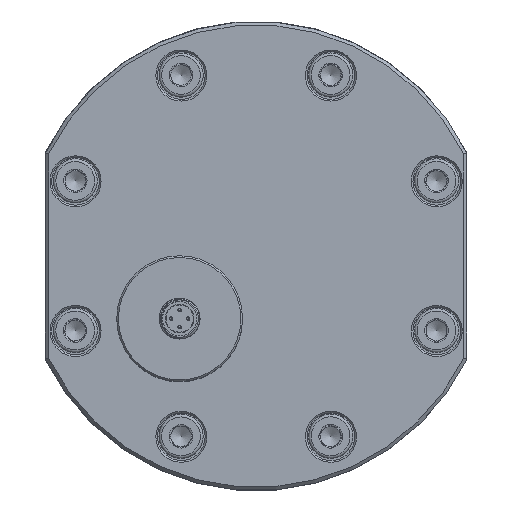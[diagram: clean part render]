
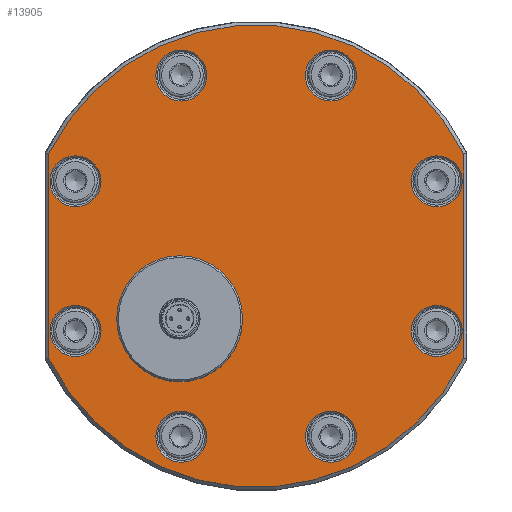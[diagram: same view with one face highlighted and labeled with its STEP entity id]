
A CAD part, top view. The second image highlights one B-rep face of the part: STEP entity #13905.
In plain terms, the highlighted planar face has unit normal (0, 0, 1).
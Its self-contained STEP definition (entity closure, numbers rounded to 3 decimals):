
#489=LINE('',#64058,#5764);
#490=LINE('',#64063,#5765);
#5764=VECTOR('',#48195,1.);
#5765=VECTOR('',#48198,1.);
#13905=ADVANCED_FACE('',(#17956,#17957,#17958,#17959,#17960,#17961,#17962,
#17963,#17964,#17965),#16001,.F.);
#16001=PLANE('',#44542);
#17956=FACE_BOUND('',#18575,.T.);
#17957=FACE_BOUND('',#18576,.T.);
#17958=FACE_BOUND('',#18577,.T.);
#17959=FACE_BOUND('',#18578,.T.);
#17960=FACE_BOUND('',#18579,.T.);
#17961=FACE_BOUND('',#18580,.T.);
#17962=FACE_BOUND('',#18581,.T.);
#17963=FACE_BOUND('',#18582,.T.);
#17964=FACE_BOUND('',#18583,.T.);
#17965=FACE_BOUND('',#18584,.T.);
#18575=EDGE_LOOP('',(#21730,#21731,#21732,#21733));
#18576=EDGE_LOOP('',(#21734));
#18577=EDGE_LOOP('',(#21735));
#18578=EDGE_LOOP('',(#21736));
#18579=EDGE_LOOP('',(#21737));
#18580=EDGE_LOOP('',(#21738));
#18581=EDGE_LOOP('',(#21739));
#18582=EDGE_LOOP('',(#21740));
#18583=EDGE_LOOP('',(#21741));
#18584=EDGE_LOOP('',(#21742));
#21730=ORIENTED_EDGE('',*,*,#37688,.T.);
#21731=ORIENTED_EDGE('',*,*,#37689,.T.);
#21732=ORIENTED_EDGE('',*,*,#37690,.T.);
#21733=ORIENTED_EDGE('',*,*,#37691,.T.);
#21734=ORIENTED_EDGE('',*,*,#37692,.T.);
#21735=ORIENTED_EDGE('',*,*,#37693,.T.);
#21736=ORIENTED_EDGE('',*,*,#37694,.T.);
#21737=ORIENTED_EDGE('',*,*,#37695,.T.);
#21738=ORIENTED_EDGE('',*,*,#37696,.T.);
#21739=ORIENTED_EDGE('',*,*,#37697,.T.);
#21740=ORIENTED_EDGE('',*,*,#37698,.T.);
#21741=ORIENTED_EDGE('',*,*,#37699,.T.);
#21742=ORIENTED_EDGE('',*,*,#37700,.T.);
#33370=VERTEX_POINT('',#64059);
#33371=VERTEX_POINT('',#64060);
#33372=VERTEX_POINT('',#64062);
#33373=VERTEX_POINT('',#64064);
#33374=VERTEX_POINT('',#64067);
#33375=VERTEX_POINT('',#64069);
#33376=VERTEX_POINT('',#64071);
#33377=VERTEX_POINT('',#64073);
#33378=VERTEX_POINT('',#64075);
#33379=VERTEX_POINT('',#64077);
#33380=VERTEX_POINT('',#64079);
#33381=VERTEX_POINT('',#64081);
#33382=VERTEX_POINT('',#64083);
#37688=EDGE_CURVE('',#33370,#33371,#489,.T.);
#37689=EDGE_CURVE('',#33371,#33372,#43575,.T.);
#37690=EDGE_CURVE('',#33372,#33373,#490,.T.);
#37691=EDGE_CURVE('',#33373,#33370,#43576,.T.);
#37692=EDGE_CURVE('',#33374,#33374,#43577,.T.);
#37693=EDGE_CURVE('',#33375,#33375,#43578,.T.);
#37694=EDGE_CURVE('',#33376,#33376,#43579,.T.);
#37695=EDGE_CURVE('',#33377,#33377,#43580,.T.);
#37696=EDGE_CURVE('',#33378,#33378,#43581,.T.);
#37697=EDGE_CURVE('',#33379,#33379,#43582,.T.);
#37698=EDGE_CURVE('',#33380,#33380,#43583,.T.);
#37699=EDGE_CURVE('',#33381,#33381,#43584,.T.);
#37700=EDGE_CURVE('',#33382,#33382,#43585,.T.);
#43575=CIRCLE('',#44531,68.);
#43576=CIRCLE('',#44532,68.);
#43577=CIRCLE('',#44533,7.5);
#43578=CIRCLE('',#44534,7.5);
#43579=CIRCLE('',#44535,7.5);
#43580=CIRCLE('',#44536,7.5);
#43581=CIRCLE('',#44537,7.5);
#43582=CIRCLE('',#44538,7.5);
#43583=CIRCLE('',#44539,7.5);
#43584=CIRCLE('',#44540,7.5);
#43585=CIRCLE('',#44541,5.);
#44531=AXIS2_PLACEMENT_3D('',#64061,#48196,#48197);
#44532=AXIS2_PLACEMENT_3D('',#64065,#48199,#48200);
#44533=AXIS2_PLACEMENT_3D('',#64066,#48201,#48202);
#44534=AXIS2_PLACEMENT_3D('',#64068,#48203,#48204);
#44535=AXIS2_PLACEMENT_3D('',#64070,#48205,#48206);
#44536=AXIS2_PLACEMENT_3D('',#64072,#48207,#48208);
#44537=AXIS2_PLACEMENT_3D('',#64074,#48209,#48210);
#44538=AXIS2_PLACEMENT_3D('',#64076,#48211,#48212);
#44539=AXIS2_PLACEMENT_3D('',#64078,#48213,#48214);
#44540=AXIS2_PLACEMENT_3D('',#64080,#48215,#48216);
#44541=AXIS2_PLACEMENT_3D('',#64082,#48217,#48218);
#44542=AXIS2_PLACEMENT_3D('',#64084,#48219,#48220);
#48195=DIRECTION('',(0.,1.,0.));
#48196=DIRECTION('',(0.,0.,1.));
#48197=DIRECTION('',(0.,1.,0.));
#48198=DIRECTION('',(0.,-1.,0.));
#48199=DIRECTION('',(0.,0.,1.));
#48200=DIRECTION('',(0.,1.,0.));
#48201=DIRECTION('',(0.,0.,-1.));
#48202=DIRECTION('',(0.,1.,0.));
#48203=DIRECTION('',(0.,0.,-1.));
#48204=DIRECTION('',(0.,1.,0.));
#48205=DIRECTION('',(0.,0.,-1.));
#48206=DIRECTION('',(0.,1.,0.));
#48207=DIRECTION('',(0.,0.,-1.));
#48208=DIRECTION('',(0.,1.,0.));
#48209=DIRECTION('',(0.,0.,-1.));
#48210=DIRECTION('',(0.,1.,0.));
#48211=DIRECTION('',(0.,0.,-1.));
#48212=DIRECTION('',(0.,1.,0.));
#48213=DIRECTION('',(0.,0.,-1.));
#48214=DIRECTION('',(0.,1.,0.));
#48215=DIRECTION('',(0.,0.,-1.));
#48216=DIRECTION('',(0.,1.,0.));
#48217=DIRECTION('',(0.,0.,-1.));
#48218=DIRECTION('',(0.,1.,0.));
#48219=DIRECTION('',(0.,0.,-1.));
#48220=DIRECTION('',(0.,-1.,0.));
#64058=CARTESIAN_POINT('',(-55.691,168.86,-17.65));
#64059=CARTESIAN_POINT('',(-55.691,83.31,-17.65));
#64060=CARTESIAN_POINT('',(-55.691,143.41,-17.65));
#64061=CARTESIAN_POINT('',(-116.691,113.36,-17.65));
#64062=CARTESIAN_POINT('',(-177.691,143.41,-17.65));
#64063=CARTESIAN_POINT('',(-177.691,168.86,-17.65));
#64064=CARTESIAN_POINT('',(-177.691,83.31,-17.65));
#64065=CARTESIAN_POINT('',(-116.691,113.36,-17.65));
#64066=CARTESIAN_POINT('',(-138.695,60.237,-17.65));
#64067=CARTESIAN_POINT('',(-138.695,67.737,-17.65));
#64068=CARTESIAN_POINT('',(-169.814,91.356,-17.65));
#64069=CARTESIAN_POINT('',(-169.814,98.856,-17.65));
#64070=CARTESIAN_POINT('',(-169.814,135.364,-17.65));
#64071=CARTESIAN_POINT('',(-169.814,142.864,-17.65));
#64072=CARTESIAN_POINT('',(-138.695,166.483,-17.65));
#64073=CARTESIAN_POINT('',(-138.695,173.983,-17.65));
#64074=CARTESIAN_POINT('',(-94.686,166.483,-17.65));
#64075=CARTESIAN_POINT('',(-94.686,173.983,-17.65));
#64076=CARTESIAN_POINT('',(-63.567,135.364,-17.65));
#64077=CARTESIAN_POINT('',(-63.567,142.864,-17.65));
#64078=CARTESIAN_POINT('',(-63.567,91.356,-17.65));
#64079=CARTESIAN_POINT('',(-63.567,98.856,-17.65));
#64080=CARTESIAN_POINT('',(-94.686,60.237,-17.65));
#64081=CARTESIAN_POINT('',(-94.686,67.737,-17.65));
#64082=CARTESIAN_POINT('',(-139.191,94.86,-17.65));
#64083=CARTESIAN_POINT('',(-139.191,99.86,-17.65));
#64084=CARTESIAN_POINT('',(-64.691,168.86,-17.65));
